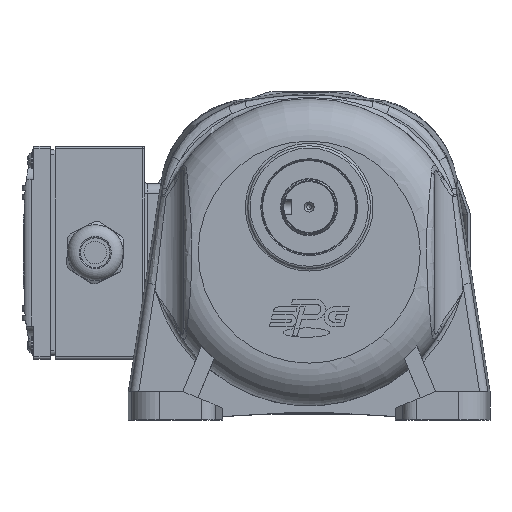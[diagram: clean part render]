
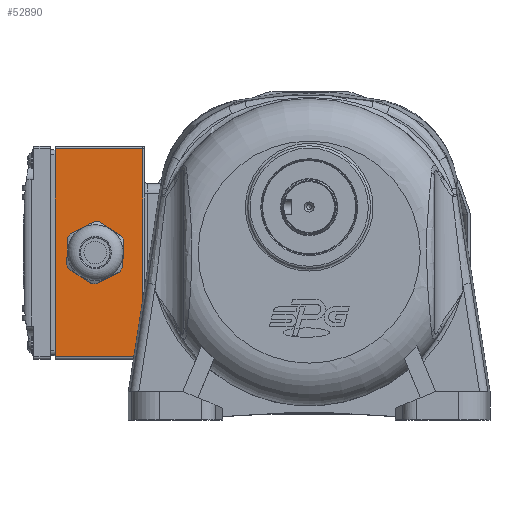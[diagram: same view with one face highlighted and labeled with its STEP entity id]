
A CAD part, top view. The second image highlights one B-rep face of the part: STEP entity #52890.
In plain terms, the highlighted planar face has unit normal (0, 0, 1).
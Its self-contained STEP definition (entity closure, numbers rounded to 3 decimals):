
#5941=FACE_BOUND('',#11113,.T.);
#6457=PLANE('',#56690);
#7849=FACE_OUTER_BOUND('',#11112,.T.);
#11112=EDGE_LOOP('',(#38736,#38737,#38738,#38739));
#11113=EDGE_LOOP('',(#38740,#38741,#38742,#38743,#38744,#38745,#38746,#38747,
#38748,#38749,#38750,#38751));
#14195=LINE('',#78802,#17151);
#14224=LINE('',#78922,#17180);
#14225=LINE('',#78924,#17181);
#14226=LINE('',#78926,#17182);
#14227=LINE('',#78928,#17183);
#14228=LINE('',#78930,#17184);
#14819=LINE('',#81032,#17775);
#14821=LINE('',#81047,#17777);
#14823=LINE('',#81053,#17779);
#14824=LINE('',#81054,#17780);
#17151=VECTOR('',#62573,10.);
#17180=VECTOR('',#62684,10.);
#17181=VECTOR('',#62687,10.);
#17182=VECTOR('',#62690,10.);
#17183=VECTOR('',#62693,10.);
#17184=VECTOR('',#62696,10.);
#17775=VECTOR('',#64385,10.);
#17777=VECTOR('',#64407,10.);
#17779=VECTOR('',#64413,10.);
#17780=VECTOR('',#64414,10.);
#20100=CIRCLE('',#56068,13.);
#20102=CIRCLE('',#56071,13.);
#20104=CIRCLE('',#56074,13.);
#20106=CIRCLE('',#56077,13.);
#20108=CIRCLE('',#56080,13.);
#20110=CIRCLE('',#56083,13.);
#23299=VERTEX_POINT('',#78748);
#23301=VERTEX_POINT('',#78752);
#23303=VERTEX_POINT('',#78757);
#23305=VERTEX_POINT('',#78761);
#23307=VERTEX_POINT('',#78766);
#23309=VERTEX_POINT('',#78770);
#23311=VERTEX_POINT('',#78775);
#23313=VERTEX_POINT('',#78779);
#23315=VERTEX_POINT('',#78784);
#23317=VERTEX_POINT('',#78788);
#23319=VERTEX_POINT('',#78793);
#23321=VERTEX_POINT('',#78797);
#23952=VERTEX_POINT('',#81028);
#23953=VERTEX_POINT('',#81030);
#23956=VERTEX_POINT('',#81046);
#23958=VERTEX_POINT('',#81052);
#28423=EDGE_CURVE('',#23299,#23301,#20100,.T.);
#28427=EDGE_CURVE('',#23303,#23305,#20102,.T.);
#28431=EDGE_CURVE('',#23307,#23309,#20104,.T.);
#28435=EDGE_CURVE('',#23311,#23313,#20106,.T.);
#28439=EDGE_CURVE('',#23315,#23317,#20108,.T.);
#28443=EDGE_CURVE('',#23319,#23321,#20110,.T.);
#28445=EDGE_CURVE('',#23321,#23299,#14195,.T.);
#28501=EDGE_CURVE('',#23301,#23303,#14224,.T.);
#28502=EDGE_CURVE('',#23317,#23319,#14225,.T.);
#28503=EDGE_CURVE('',#23313,#23315,#14226,.T.);
#28504=EDGE_CURVE('',#23309,#23311,#14227,.T.);
#28505=EDGE_CURVE('',#23305,#23307,#14228,.T.);
#29387=EDGE_CURVE('',#23953,#23952,#14819,.T.);
#29394=EDGE_CURVE('',#23952,#23956,#14821,.T.);
#29397=EDGE_CURVE('',#23958,#23953,#14823,.T.);
#29398=EDGE_CURVE('',#23958,#23956,#14824,.T.);
#38736=ORIENTED_EDGE('',*,*,#29387,.F.);
#38737=ORIENTED_EDGE('',*,*,#29397,.F.);
#38738=ORIENTED_EDGE('',*,*,#29398,.T.);
#38739=ORIENTED_EDGE('',*,*,#29394,.F.);
#38740=ORIENTED_EDGE('',*,*,#28443,.T.);
#38741=ORIENTED_EDGE('',*,*,#28445,.T.);
#38742=ORIENTED_EDGE('',*,*,#28423,.T.);
#38743=ORIENTED_EDGE('',*,*,#28501,.T.);
#38744=ORIENTED_EDGE('',*,*,#28427,.T.);
#38745=ORIENTED_EDGE('',*,*,#28505,.T.);
#38746=ORIENTED_EDGE('',*,*,#28431,.T.);
#38747=ORIENTED_EDGE('',*,*,#28504,.T.);
#38748=ORIENTED_EDGE('',*,*,#28435,.T.);
#38749=ORIENTED_EDGE('',*,*,#28503,.T.);
#38750=ORIENTED_EDGE('',*,*,#28439,.T.);
#38751=ORIENTED_EDGE('',*,*,#28502,.T.);
#52890=ADVANCED_FACE('',(#7849,#5941),#6457,.T.);
#56068=AXIS2_PLACEMENT_3D('',#78754,#62528,#62529);
#56071=AXIS2_PLACEMENT_3D('',#78763,#62536,#62537);
#56074=AXIS2_PLACEMENT_3D('',#78772,#62544,#62545);
#56077=AXIS2_PLACEMENT_3D('',#78781,#62552,#62553);
#56080=AXIS2_PLACEMENT_3D('',#78790,#62560,#62561);
#56083=AXIS2_PLACEMENT_3D('',#78799,#62568,#62569);
#56690=AXIS2_PLACEMENT_3D('',#81051,#64411,#64412);
#62528=DIRECTION('center_axis',(0.,0.,
-1.));
#62529=DIRECTION('ref_axis',(-0.051,-0.999,0.));
#62536=DIRECTION('center_axis',(0.,0.,
-1.));
#62537=DIRECTION('ref_axis',(-0.051,-0.999,0.));
#62544=DIRECTION('center_axis',(0.,0.,
-1.));
#62545=DIRECTION('ref_axis',(-0.051,-0.999,0.));
#62552=DIRECTION('center_axis',(0.,0.,
-1.));
#62553=DIRECTION('ref_axis',(-0.051,-0.999,0.));
#62560=DIRECTION('center_axis',(0.,0.,
-1.));
#62561=DIRECTION('ref_axis',(-0.051,-0.999,0.));
#62568=DIRECTION('center_axis',(0.,0.,
-1.));
#62569=DIRECTION('ref_axis',(-0.051,-0.999,0.));
#62573=DIRECTION('',(0.051,0.999,0.));
#62684=DIRECTION('',(0.891,0.455,0.));
#62687=DIRECTION('',(-0.839,0.544,0.));
#62690=DIRECTION('',(-0.891,-0.455,0.));
#62693=DIRECTION('',(-0.051,-0.999,0.));
#62696=DIRECTION('',(0.839,-0.544,0.));
#64385=DIRECTION('',(0.,-1.,0.));
#64407=DIRECTION('',(-1.,0.,0.));
#64411=DIRECTION('center_axis',(0.,0.,
1.));
#64412=DIRECTION('ref_axis',(1.,0.,0.));
#64413=DIRECTION('',(1.,0.,0.));
#64414=DIRECTION('',(0.,-1.,0.));
#78748=CARTESIAN_POINT('',(-85.963,4.23,-96.75));
#78752=CARTESIAN_POINT('',(-84.554,6.404,-96.75));
#78754=CARTESIAN_POINT('Origin',(-74.404,-1.718,-96.75));
#78757=CARTESIAN_POINT('',(-75.032,11.267,-96.75));
#78761=CARTESIAN_POINT('',(-72.444,11.133,-96.75));
#78763=CARTESIAN_POINT('Origin',(-74.404,-1.718,-96.75));
#78766=CARTESIAN_POINT('',(-63.473,5.318,-96.75));
#78770=CARTESIAN_POINT('',(-62.294,3.011,-96.75));
#78772=CARTESIAN_POINT('Origin',(-74.404,-1.718,-96.75));
#78775=CARTESIAN_POINT('',(-62.844,-7.666,-96.75));
#78779=CARTESIAN_POINT('',(-64.253,-9.84,-96.75));
#78781=CARTESIAN_POINT('Origin',(-74.404,-1.718,-96.75));
#78784=CARTESIAN_POINT('',(-73.775,-14.703,-96.75));
#78788=CARTESIAN_POINT('',(-76.363,-14.57,-96.75));
#78790=CARTESIAN_POINT('Origin',(-74.404,-1.718,-96.75));
#78793=CARTESIAN_POINT('',(-85.335,-8.755,-96.75));
#78797=CARTESIAN_POINT('',(-86.513,-6.447,-96.75));
#78799=CARTESIAN_POINT('Origin',(-74.404,-1.718,-96.75));
#78802=CARTESIAN_POINT('',(-84.878,25.288,-96.75));
#78922=CARTESIAN_POINT('',(-59.305,19.298,-96.75));
#78924=CARTESIAN_POINT('',(-86.594,-7.938,-96.75));
#78926=CARTESIAN_POINT('',(-54.619,-4.921,-96.75));
#78928=CARTESIAN_POINT('',(-61.562,17.236,-96.75));
#78930=CARTESIAN_POINT('',(-67.963,8.229,-96.75));
#81028=CARTESIAN_POINT('',(-54.404,-45.718,-96.75));
#81030=CARTESIAN_POINT('',(-54.404,42.282,-96.75));
#81032=CARTESIAN_POINT('',(-54.404,20.782,-96.75));
#81046=CARTESIAN_POINT('',(-91.404,-45.718,-96.75));
#81047=CARTESIAN_POINT('',(-53.404,-45.718,-96.75));
#81051=CARTESIAN_POINT('Origin',(-53.404,43.282,-96.75));
#81052=CARTESIAN_POINT('',(-91.404,42.282,-96.75));
#81053=CARTESIAN_POINT('',(-53.404,42.282,-96.75));
#81054=CARTESIAN_POINT('',(-91.404,-46.718,-96.75));
